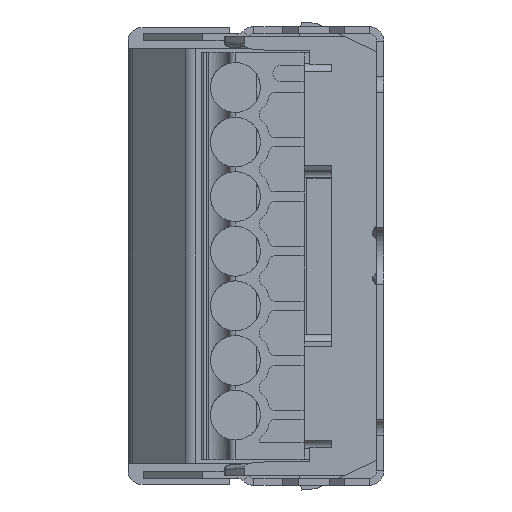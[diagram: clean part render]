
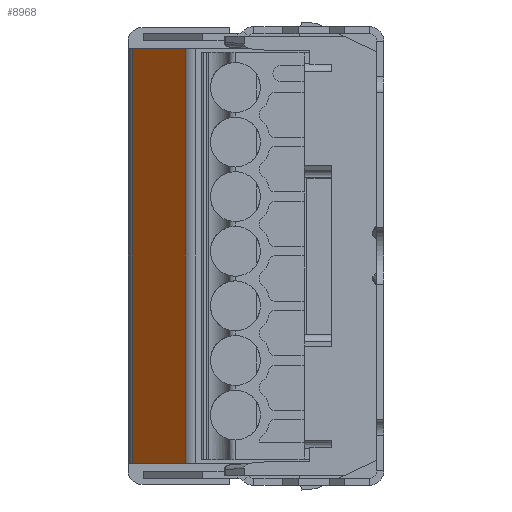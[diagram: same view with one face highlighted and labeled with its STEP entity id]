
A CAD part, left-side view. The second image highlights one B-rep face of the part: STEP entity #8968.
In plain terms, the highlighted planar face has unit normal (-0.707, 0.707, 0).
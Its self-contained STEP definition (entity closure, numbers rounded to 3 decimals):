
#109 = DIRECTION ( 'NONE',  ( -0.707, 0.707, 0. ) ) ;
#885 = CARTESIAN_POINT ( 'NONE',  ( -0.728, 16.67, 13.3 ) ) ;
#1948 = PLANE ( 'NONE',  #3766 ) ;
#2832 = DIRECTION ( 'NONE',  ( -0.707, -0.707, 0. ) ) ;
#3637 = EDGE_CURVE ( 'NONE', #19076, #10302, #21674, .T. ) ;
#3766 = AXIS2_PLACEMENT_3D ( 'NONE', #12127, #109, #14125 ) ;
#4076 = CARTESIAN_POINT ( 'NONE',  ( -4.656, 12.742, 14.65 ) ) ;
#4370 = CARTESIAN_POINT ( 'NONE',  ( -1.262, 16.136, 14.65 ) ) ;
#5970 = CARTESIAN_POINT ( 'NONE',  ( -1.262, 16.136, -13.3 ) ) ;
#6261 = VECTOR ( 'NONE', #2832, 1000. ) ;
#6916 = CARTESIAN_POINT ( 'NONE',  ( -0.728, 16.67, -13.3 ) ) ;
#6977 = EDGE_CURVE ( 'NONE', #19076, #20368, #7751, .T. ) ;
#7124 = ORIENTED_EDGE ( 'NONE', *, *, #6977, .T. ) ;
#7751 = LINE ( 'NONE', #4370, #23216 ) ;
#8058 = DIRECTION ( 'NONE',  ( 0., 0., -1. ) ) ;
#8911 = DIRECTION ( 'NONE',  ( -0.707, -0.707, 0. ) ) ;
#8968 = ADVANCED_FACE ( 'NONE', ( #15215 ), #1948, .T. ) ;
#9089 = CARTESIAN_POINT ( 'NONE',  ( -1.262, 16.136, 13.3 ) ) ;
#9131 = LINE ( 'NONE', #6916, #24597 ) ;
#9166 = CARTESIAN_POINT ( 'NONE',  ( -4.656, 12.742, -13.3 ) ) ;
#10302 = VERTEX_POINT ( 'NONE', #21265 ) ;
#10400 = DIRECTION ( 'NONE',  ( 0., 0., -1. ) ) ;
#12127 = CARTESIAN_POINT ( 'NONE',  ( 154.129, 171.527, 14.65 ) ) ;
#14125 = DIRECTION ( 'NONE',  ( 0., 0., 1. ) ) ;
#15215 = FACE_OUTER_BOUND ( 'NONE', #18293, .T. ) ;
#16660 = VECTOR ( 'NONE', #8058, 1000. ) ;
#17458 = ORIENTED_EDGE ( 'NONE', *, *, #22985, .T. ) ;
#18251 = ORIENTED_EDGE ( 'NONE', *, *, #20396, .F. ) ;
#18293 = EDGE_LOOP ( 'NONE', ( #17458, #18251, #18487, #7124 ) ) ;
#18487 = ORIENTED_EDGE ( 'NONE', *, *, #3637, .F. ) ;
#19076 = VERTEX_POINT ( 'NONE', #9089 ) ;
#20368 = VERTEX_POINT ( 'NONE', #5970 ) ;
#20396 = EDGE_CURVE ( 'NONE', #10302, #21419, #22015, .T. ) ;
#21265 = CARTESIAN_POINT ( 'NONE',  ( -4.656, 12.742, 13.3 ) ) ;
#21419 = VERTEX_POINT ( 'NONE', #9166 ) ;
#21674 = LINE ( 'NONE', #885, #6261 ) ;
#22015 = LINE ( 'NONE', #4076, #16660 ) ;
#22985 = EDGE_CURVE ( 'NONE', #20368, #21419, #9131, .T. ) ;
#23216 = VECTOR ( 'NONE', #10400, 1000. ) ;
#24597 = VECTOR ( 'NONE', #8911, 1000. ) ;
